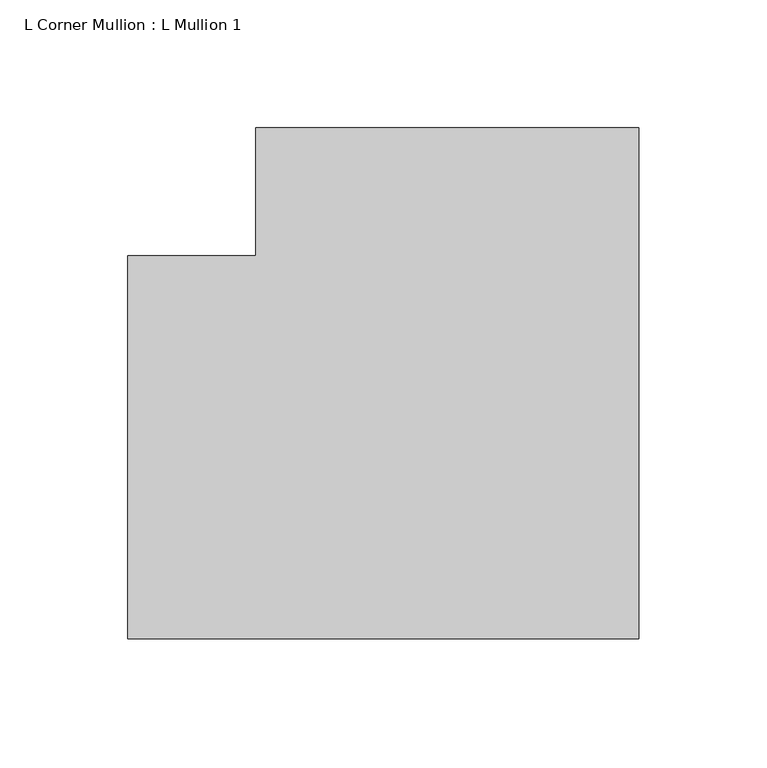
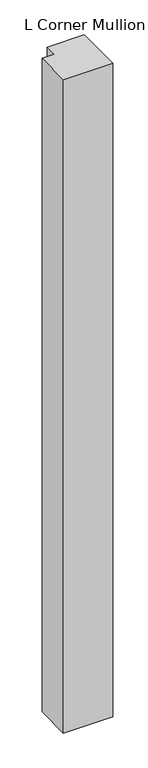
"""IFC4 building model written with IfcOpenShell, lengths in millimetres: member geometry, L Corner Mullion : L Mullion 1."""

import ifcopenshell
import ifcopenshell.guid

model = None  # the IFC model being written
_history = None  # IfcOwnerHistory: only IFC2X3 demands one
_inside = {}  # id of a spatial element -> (the spatial element, [elements in it])
_under = {}  # id of a project, library or spatial element -> (it, [spatial elements below it])
_declared = {}  # id of a project -> (the project, [libraries it declares])
_typed = {}  # id of a type object -> (the type object, [elements of that type])
_made_of = {}  # id of a material, layer set ... -> (it, [elements and type objects made of it])


def new_model(schema):
    """Start an empty IFC model of exactly this schema.

    Asked for "IFC4X3", IfcOpenShell would pick the latest addendum, in which some entities
    have other attributes; the version numbers below select the first issue.
    IFC2X3 requires an IfcOwnerHistory on every rooted entity: one is made here for all.
    """
    global model, _history
    if schema == "IFC4X3":
        model = ifcopenshell.file(schema_version=(4, 3, 0, 0))
    else:
        model = ifcopenshell.file(schema=schema)
    _inside.clear()
    _under.clear()
    _declared.clear()
    _typed.clear()
    _made_of.clear()
    _history = None
    if model.schema == "IFC2X3":
        org = make("IfcOrganization", Name="unknown")
        user = make(
            "IfcPersonAndOrganization",
            ThePerson=make("IfcPerson", FamilyName="unknown"),
            TheOrganization=org,
        )
        app = make(
            "IfcApplication",
            ApplicationDeveloper=org,
            Version="unknown",
            ApplicationFullName="unknown",
            ApplicationIdentifier="unknown",
        )
        _history = make(
            "IfcOwnerHistory",
            OwningUser=user,
            OwningApplication=app,
            ChangeAction="ADDED",
            CreationDate=0,
        )
    return model


def make(cls, **values):
    """One entity of the class cls with the attributes given. An attribute that is None is left unset."""
    return model.create_entity(
        cls, **{name: value for name, value in values.items() if value is not None}
    )


def rooted(cls, **values):
    """An entity with a GlobalId (a new one), such as an element, a storey or a relation."""
    return make(cls, GlobalId=ifcopenshell.guid.new(), OwnerHistory=_history, **values)


def si_unit(unit_type, name, prefix=None):
    """IfcSIUnit, for example si_unit("LENGTHUNIT", "METRE", prefix="MILLI")."""
    return make("IfcSIUnit", UnitType=unit_type, Prefix=prefix, Name=name)


def assignment(units):
    """IfcUnitAssignment: the units of a project."""
    return None if units is None else make("IfcUnitAssignment", Units=units)


def point(xyz):
    """IfcCartesianPoint."""
    return None if xyz is None else make("IfcCartesianPoint", Coordinates=xyz)


def direction(xyz):
    """IfcDirection."""
    return None if xyz is None else make("IfcDirection", DirectionRatios=xyz)


def frame(location, z_axis=None, x_axis=None):
    """IfcAxis2Placement3D, a coordinate frame: its origin and axes. An axis left out is left unset."""
    return make(
        "IfcAxis2Placement3D",
        Location=point(location),
        Axis=direction(z_axis),
        RefDirection=direction(x_axis),
    )


def origin():
    """The frame at (0, 0, 0) with its axes left unset."""
    return frame((0.0, 0.0, 0.0))


def place(relative_to, where):
    """IfcLocalPlacement: puts the frame where relative to a parent placement (None: the world)."""
    return make(
        "IfcLocalPlacement", PlacementRelTo=relative_to, RelativePlacement=where
    )


def context(
    kind, dimensions, precision=None, world=None, true_north=None, identifier=None
):
    """IfcGeometricRepresentationContext, for example the 3D "Model" context."""
    return make(
        "IfcGeometricRepresentationContext",
        ContextIdentifier=identifier,
        ContextType=kind,
        CoordinateSpaceDimension=dimensions,
        Precision=precision,
        WorldCoordinateSystem=world,
        TrueNorth=true_north,
    )


def project(units=None, contexts=None):
    """IfcProject with its units and contexts."""
    return rooted(
        "IfcProject",
        Name="project",
        RepresentationContexts=contexts,
        UnitsInContext=assignment(units),
    )


def spatial(cls, under=None, at=None, **own):
    """A site, building, storey or space (cls), placed at a placement, below another one or the project."""
    s = rooted(cls, ObjectPlacement=at, **own)
    if under is not None:
        _under.setdefault(under.id(), (under, []))[1].append(s)
    return s


def polyline(points):
    """IfcPolyline through the points."""
    return make("IfcPolyline", Points=[point(p) for p in points])


def outline(outer, holes=None, kind="AREA"):
    """IfcArbitraryClosedProfileDef: a profile drawn as a closed curve; with holes, ...WithVoids."""
    if holes is None:
        return make("IfcArbitraryClosedProfileDef", ProfileType=kind, OuterCurve=outer)
    return make(
        "IfcArbitraryProfileDefWithVoids",
        ProfileType=kind,
        OuterCurve=outer,
        InnerCurves=holes,
    )


def extrude(swept, where, along, depth):
    """IfcExtrudedAreaSolid: the profile swept, set in the frame where, extruded along a direction by depth."""
    return make(
        "IfcExtrudedAreaSolid",
        SweptArea=swept,
        Position=where,
        ExtrudedDirection=direction(along),
        Depth=depth,
    )


def shape(context_of_items, identifier, shape_type, items):
    """IfcShapeRepresentation: the items that make up one representation, for example the "Body"."""
    return make(
        "IfcShapeRepresentation",
        ContextOfItems=context_of_items,
        RepresentationIdentifier=identifier,
        RepresentationType=shape_type,
        Items=items,
    )


def source(mapping_origin, context_of_items, identifier, shape_type, items):
    """IfcRepresentationMap: a shape defined once, which mapped items show again and again."""
    return make(
        "IfcRepresentationMap",
        MappingOrigin=mapping_origin,
        MappedRepresentation=shape(context_of_items, identifier, shape_type, items),
    )


def transform(
    local_origin,
    x_axis=None,
    y_axis=None,
    z_axis=None,
    scale=None,
    scale2=None,
    scale3=None,
    uniform=True,
):
    """IfcCartesianTransformationOperator3D, or its non-uniform kind. x_axis, y_axis, z_axis: its Axis1, 2, 3."""
    if uniform:
        return make(
            "IfcCartesianTransformationOperator3D",
            Axis1=direction(x_axis),
            Axis2=direction(y_axis),
            LocalOrigin=point(local_origin),
            Scale=scale,
            Axis3=direction(z_axis),
        )
    return make(
        "IfcCartesianTransformationOperator3DnonUniform",
        Axis1=direction(x_axis),
        Axis2=direction(y_axis),
        LocalOrigin=point(local_origin),
        Scale=scale,
        Axis3=direction(z_axis),
        Scale2=scale2,
        Scale3=scale3,
    )


def mapped(mapping_source, mapping_target):
    """IfcMappedItem: shows the shape of a source again, moved by a transform."""
    return make(
        "IfcMappedItem", MappingSource=mapping_source, MappingTarget=mapping_target
    )


def made_of(thing, what):
    """Note that an element or type object is made of a material, layer set ...; save() writes the relation."""
    if what is not None:
        _made_of.setdefault(what.id(), (what, []))[1].append(thing)
    return thing


def element(
    cls,
    number,
    at=None,
    inside=None,
    cuts=None,
    type_object=None,
    material=None,
    context=None,
    identifier="Body",
    shape_type=None,
    held_by="IfcProductDefinitionShape",
    body=None,
    shapes=None,
    **own,
):
    """One element of the class cls, such as IfcWall. Its Tag is "e" and its number.

    at: its placement. inside: the storey or other place that contains it. cuts: it is an
    opening in that element (IfcRelVoidsElement). A single representation is given by context,
    identifier, shape_type and body (its items); several are given by shapes. held_by: the class
    of the entity that holds the representations. save() writes the other relations.
    """
    e = rooted(cls, Tag="e%d" % number, ObjectPlacement=at, **own)
    if body is not None:
        shapes = [shape(context, identifier, shape_type, body)]
    if shapes is not None:
        e.Representation = make(held_by, Representations=shapes)
    if inside is not None:
        _inside.setdefault(inside.id(), (inside, []))[1].append(e)
    if cuts is not None:
        rooted(
            "IfcRelVoidsElement", RelatingBuildingElement=cuts, RelatedOpeningElement=e
        )
    if type_object is not None:
        _typed.setdefault(type_object.id(), (type_object, []))[1].append(e)
    return made_of(e, material)


def aggregate(whole, parts):
    """IfcRelAggregates: a whole, such as a stair, and the parts it consists of."""
    return rooted("IfcRelAggregates", RelatingObject=whole, RelatedObjects=parts)


def save(model, path):
    """Write the relations noted so far, then the file.

    IfcRelAggregates (storeys below a building ...), IfcRelContainedInSpatialStructure (elements
    in a storey), IfcRelDefinesByType, IfcRelAssociatesMaterial and IfcRelDeclares: one each for
    every whole, place, type object, material and project.
    """
    for whole, parts in _under.values():
        aggregate(whole, parts)
    for where, things in _inside.values():
        rooted(
            "IfcRelContainedInSpatialStructure",
            RelatedElements=things,
            RelatingStructure=where,
        )
    for kind, things in _typed.values():
        rooted("IfcRelDefinesByType", RelatedObjects=things, RelatingType=kind)
    for what, things in _made_of.values():
        rooted("IfcRelAssociatesMaterial", RelatedObjects=things, RelatingMaterial=what)
    for by, libraries in _declared.values():
        rooted("IfcRelDeclares", RelatingContext=by, RelatedDefinitions=libraries)
    model.write(path)


def l_corner_mullion_l_mullion_1_72fff0f1(model_context):
    return source(origin(), model_context, "Body", "SweptSolid", [
        extrude(outline(polyline([(75.0, 125.0), (75.0, -75.0), (-125.0, -75.0), (-125.0, 75.0), (-75.0, 75.0), (-75.0, 125.0), (75.0, 125.0)])), frame((0.0, 0.0, -2800.0), z_axis=(0.0, 0.0, 1.0), x_axis=(1.0, 0.0, 0.0)), (0.0, 0.0, 1.0), 2800.0),
    ])


if __name__ == "__main__":
    model = new_model("IFC4")
    model_context = context("Model", 3, world=origin())
    ifc_project = project(units=[si_unit("LENGTHUNIT", "METRE", prefix="MILLI")], contexts=[model_context])
    site = spatial("IfcSite", under=ifc_project)
    building = spatial("IfcBuilding", under=site)
    placement = place(None, origin())
    l_corner_mullion_l_mullion_1_shape = l_corner_mullion_l_mullion_1_72fff0f1(model_context)
    element("IfcMember", 1, ObjectType="L Corner Mullion : L Mullion 1", at=placement, inside=building, context=model_context, shape_type="MappedRepresentation", body=[
        mapped(l_corner_mullion_l_mullion_1_shape, transform((0.0, 0.0, 0.0), x_axis=(1.0, 0.0, 0.0), y_axis=(0.0, 1.0, 0.0), z_axis=(0.0, 0.0, 1.0))),
    ])
    save(model, "model.ifc")
